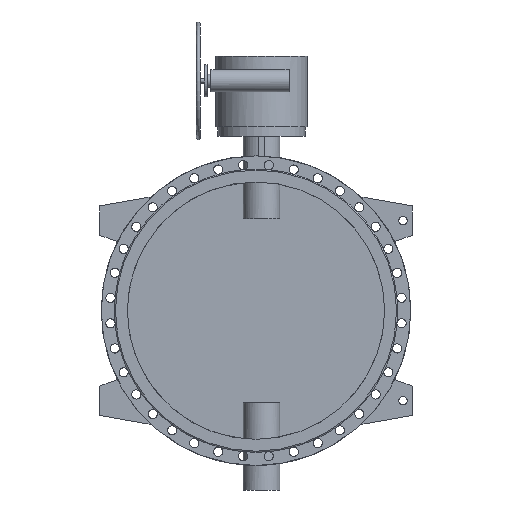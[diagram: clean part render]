
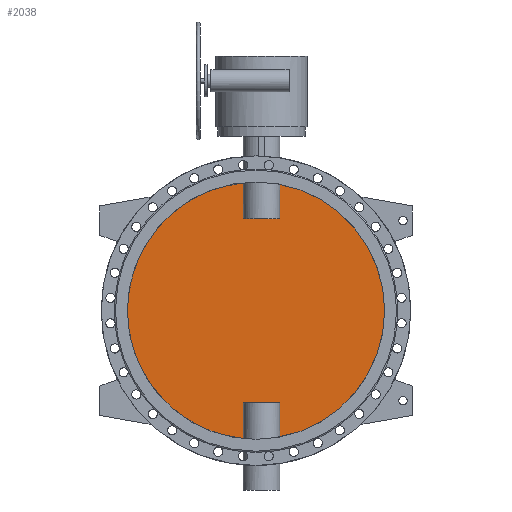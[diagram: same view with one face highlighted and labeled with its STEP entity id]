
A CAD part, front view. The second image highlights one B-rep face of the part: STEP entity #2038.
In plain terms, the highlighted planar face has unit normal (0, -1, 0).
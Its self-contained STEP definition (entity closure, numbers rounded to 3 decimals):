
#2038=ADVANCED_FACE('',(#4384),#4386,.F.);
#4384=FACE_BOUND('',#4385,.T.);
#4385=EDGE_LOOP('',(#5788,#5789,#5790,#5791,#5792,#5793,#5794,#5795));
#4386=PLANE('',#4387);
#4387=AXIS2_PLACEMENT_3D('',#4388,#4389,#4390);
#4388=CARTESIAN_POINT('',(0.,-5.,0.));
#4389=DIRECTION('',(0.,1.,0.));
#4390=DIRECTION('',(1.,0.,0.));
#5788=ORIENTED_EDGE('',*,*,#6447,.T.);
#5789=ORIENTED_EDGE('',*,*,#6453,.T.);
#5790=ORIENTED_EDGE('',*,*,#6454,.T.);
#5791=ORIENTED_EDGE('',*,*,#6455,.T.);
#5792=ORIENTED_EDGE('',*,*,#6449,.T.);
#5793=ORIENTED_EDGE('',*,*,#6456,.T.);
#5794=ORIENTED_EDGE('',*,*,#6457,.T.);
#5795=ORIENTED_EDGE('',*,*,#6458,.T.);
#6447=EDGE_CURVE('',#7525,#7526,#7527,.F.);
#6449=EDGE_CURVE('',#7530,#7528,#7531,.F.);
#6453=EDGE_CURVE('',#7526,#7537,#7538,.T.);
#6454=EDGE_CURVE('',#7537,#7539,#7540,.F.);
#6455=EDGE_CURVE('',#7539,#7530,#7541,.F.);
#6456=EDGE_CURVE('',#7528,#7542,#7543,.F.);
#6457=EDGE_CURVE('',#7542,#7544,#7545,.F.);
#6458=EDGE_CURVE('',#7544,#7525,#7546,.T.);
#7525=VERTEX_POINT('',#11080);
#7526=VERTEX_POINT('',#11081);
#7527=CIRCLE('',#11082,700.);
#7528=VERTEX_POINT('',#11086);
#7530=VERTEX_POINT('',#11148);
#7531=CIRCLE('',#11149,700.);
#7537=VERTEX_POINT('',#11288);
#7538=LINE('',#11289,#11290);
#7539=VERTEX_POINT('',#11292);
#7540=LINE('',#11293,#11294);
#7541=LINE('',#11296,#11297);
#7542=VERTEX_POINT('',#11299);
#7543=LINE('',#11300,#11301);
#7544=VERTEX_POINT('',#11303);
#7545=LINE('',#11304,#11305);
#7546=LINE('',#11307,#11308);
#11080=CARTESIAN_POINT('',(129.875,-5.,-687.846));
#11081=CARTESIAN_POINT('',(129.875,-5.,687.846));
#11082=AXIS2_PLACEMENT_3D('',#11083,#11084,#11085);
#11083=CARTESIAN_POINT('',(0.,-5.,0.));
#11084=DIRECTION('',(0.,1.,0.));
#11085=DIRECTION('',(0.186,0.,0.983));
#11086=CARTESIAN_POINT('',(-69.875,-5.,-696.504));
#11148=CARTESIAN_POINT('',(-69.875,-5.,696.504));
#11149=AXIS2_PLACEMENT_3D('',#11150,#11151,#11152);
#11150=CARTESIAN_POINT('',(0.,-5.,0.));
#11151=DIRECTION('',(0.,1.,0.));
#11152=DIRECTION('',(-0.1,0.,-0.995));
#11288=CARTESIAN_POINT('',(129.875,-5.,500.));
#11289=CARTESIAN_POINT('',(129.875,-5.,687.846));
#11290=VECTOR('',#11291,1.);
#11291=DIRECTION('',(0.,0.,-1.));
#11292=CARTESIAN_POINT('',(-69.875,-5.,500.));
#11293=CARTESIAN_POINT('',(-69.875,-5.,500.));
#11294=VECTOR('',#11295,1.);
#11295=DIRECTION('',(1.,0.,0.));
#11296=CARTESIAN_POINT('',(-69.875,-5.,696.504));
#11297=VECTOR('',#11298,1.);
#11298=DIRECTION('',(0.,0.,-1.));
#11299=CARTESIAN_POINT('',(-69.875,-5.,-500.));
#11300=CARTESIAN_POINT('',(-69.875,-5.,-500.));
#11301=VECTOR('',#11302,1.);
#11302=DIRECTION('',(0.,0.,-1.));
#11303=CARTESIAN_POINT('',(129.875,-5.,-500.));
#11304=CARTESIAN_POINT('',(129.875,-5.,-500.));
#11305=VECTOR('',#11306,1.);
#11306=DIRECTION('',(-1.,0.,0.));
#11307=CARTESIAN_POINT('',(129.875,-5.,-500.));
#11308=VECTOR('',#11309,1.);
#11309=DIRECTION('',(0.,0.,-1.));
